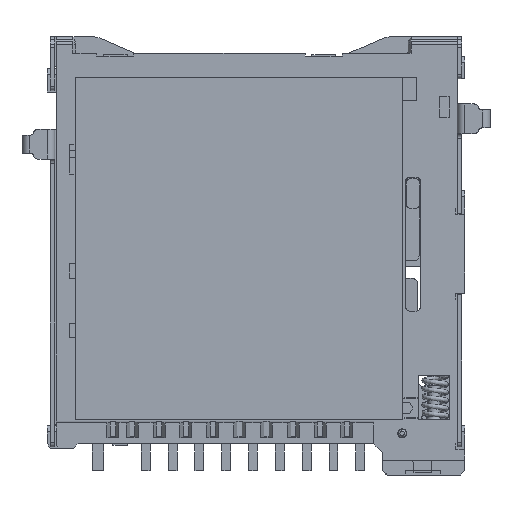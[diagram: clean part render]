
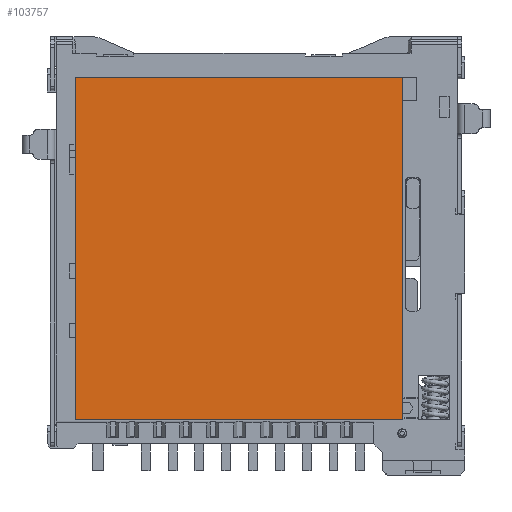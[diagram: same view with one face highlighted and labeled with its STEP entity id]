
A CAD part, front view. The second image highlights one B-rep face of the part: STEP entity #103757.
In plain terms, the highlighted planar face has unit normal (0, -1, 0).
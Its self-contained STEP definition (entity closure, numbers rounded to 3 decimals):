
#103663=DIRECTION('',(1.,0.,0.));
#103664=VECTOR('',#103663,11.);
#103665=CARTESIAN_POINT('',(-5.5,0.,-5.75));
#103666=LINE('',#103665,#103664);
#103671=DIRECTION('',(0.,0.,1.));
#103672=VECTOR('',#103671,11.5);
#103673=CARTESIAN_POINT('',(5.5,0.,-5.75));
#103674=LINE('',#103673,#103672);
#103679=DIRECTION('',(-1.,0.,0.));
#103680=VECTOR('',#103679,11.);
#103681=CARTESIAN_POINT('',(5.5,0.,5.75));
#103682=LINE('',#103681,#103680);
#103687=DIRECTION('',(0.,0.,-1.));
#103688=VECTOR('',#103687,11.5);
#103689=CARTESIAN_POINT('',(-5.5,0.,5.75));
#103690=LINE('',#103689,#103688);
#103711=CARTESIAN_POINT('',(-5.5,0.,-5.75));
#103712=CARTESIAN_POINT('',(5.5,0.,-5.75));
#103713=VERTEX_POINT('',#103711);
#103714=VERTEX_POINT('',#103712);
#103719=CARTESIAN_POINT('',(5.5,0.,5.75));
#103720=VERTEX_POINT('',#103719);
#103721=CARTESIAN_POINT('',(-5.5,0.,5.75));
#103722=VERTEX_POINT('',#103721);
#103743=CARTESIAN_POINT('',(0.,0.,0.));
#103744=DIRECTION('',(0.,1.,0.));
#103745=DIRECTION('',(0.,0.,1.));
#103746=AXIS2_PLACEMENT_3D('',#103743,#103744,#103745);
#103747=PLANE('',#103746);
#103749=ORIENTED_EDGE('',*,*,#103748,.F.);
#103750=ORIENTED_EDGE('',*,*,#103732,.F.);
#103752=ORIENTED_EDGE('',*,*,#103751,.F.);
#103754=ORIENTED_EDGE('',*,*,#103753,.F.);
#103755=EDGE_LOOP('',(#103749,#103750,#103752,#103754));
#103756=FACE_OUTER_BOUND('',#103755,.F.);
#103732=EDGE_CURVE('',#103713,#103714,#103666,.T.);
#103748=EDGE_CURVE('',#103714,#103720,#103674,.T.);
#103751=EDGE_CURVE('',#103722,#103713,#103690,.T.);
#103753=EDGE_CURVE('',#103720,#103722,#103682,.T.);
#103757=ADVANCED_FACE('',(#103756),#103747,.F.);
